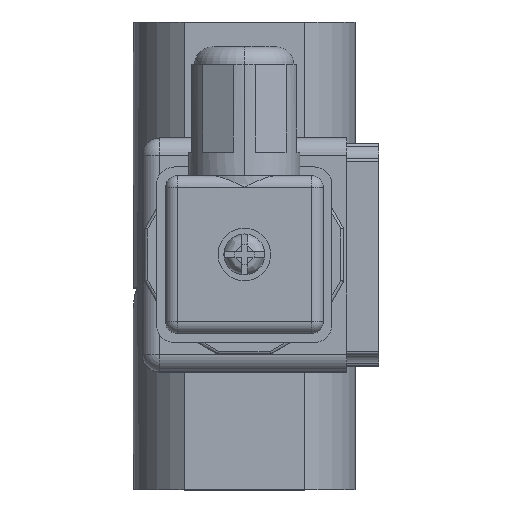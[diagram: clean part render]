
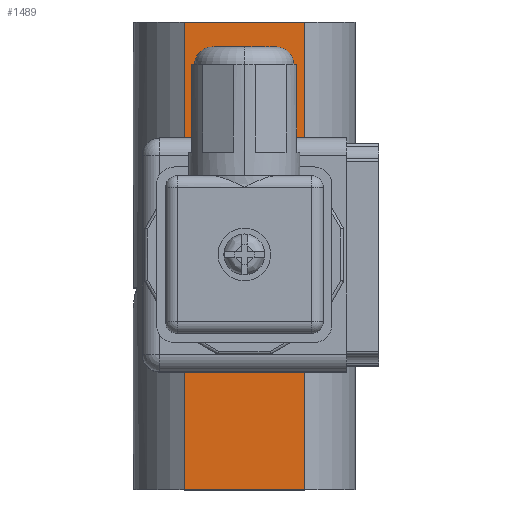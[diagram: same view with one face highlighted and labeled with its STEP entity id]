
A CAD part, top view. The second image highlights one B-rep face of the part: STEP entity #1489.
In plain terms, the highlighted planar face has unit normal (0, 0, 1).
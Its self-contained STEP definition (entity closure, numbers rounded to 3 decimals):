
#331=FACE_BOUND('',#2866,.T.);
#332=FACE_BOUND('',#2867,.T.);
#511=PLANE('',#11580);
#861=B_SPLINE_CURVE_WITH_KNOTS('',3,(#20939,#20940,#20941,#20942,#20943,
#20944,#20945,#20946,#20947,#20948),.UNSPECIFIED.,.F.,.F.,(4,2,2,2,4),(0.,
0.25,0.5,0.75,1.),.UNSPECIFIED.);
#862=B_SPLINE_CURVE_WITH_KNOTS('',3,(#20950,#20951,#20952,#20953,#20954,
#20955,#20956,#20957,#20958,#20959),.UNSPECIFIED.,.F.,.F.,(4,2,2,2,4),(0.,
0.25,0.5,0.75,1.),.UNSPECIFIED.);
#1489=ADVANCED_FACE('',(#331,#332),#511,.T.);
#2866=EDGE_LOOP('',(#6397,#6398,#6399,#6400,#6401));
#2867=EDGE_LOOP('',(#6402,#6403,#6404,#6405));
#3545=LINE('',#18199,#4368);
#3581=LINE('',#18624,#4404);
#3586=LINE('',#18640,#4409);
#3587=LINE('',#18646,#4410);
#4368=VECTOR('',#12994,1.);
#4404=VECTOR('',#13112,1.);
#4409=VECTOR('',#13125,1.);
#4410=VECTOR('',#13132,1.);
#6397=ORIENTED_EDGE('',*,*,#9959,.F.);
#6398=ORIENTED_EDGE('',*,*,#9883,.T.);
#6399=ORIENTED_EDGE('',*,*,#9900,.T.);
#6400=ORIENTED_EDGE('',*,*,#9960,.F.);
#6401=ORIENTED_EDGE('',*,*,#9961,.F.);
#6402=ORIENTED_EDGE('',*,*,#9912,.T.);
#6403=ORIENTED_EDGE('',*,*,#9829,.F.);
#6404=ORIENTED_EDGE('',*,*,#9923,.F.);
#6405=ORIENTED_EDGE('',*,*,#9920,.F.);
#8585=VERTEX_POINT('',#18198);
#8586=VERTEX_POINT('',#18200);
#8629=VERTEX_POINT('',#18404);
#8630=VERTEX_POINT('',#18405);
#8644=VERTEX_POINT('',#18514);
#8646=VERTEX_POINT('',#18625);
#8653=VERTEX_POINT('',#18641);
#8677=VERTEX_POINT('',#20949);
#8678=VERTEX_POINT('',#20960);
#9829=EDGE_CURVE('',#8585,#8586,#3545,.T.);
#9883=EDGE_CURVE('',#8629,#8630,#10991,.T.);
#9900=EDGE_CURVE('',#8630,#8644,#10992,.T.);
#9912=EDGE_CURVE('',#8646,#8586,#3581,.T.);
#9920=EDGE_CURVE('',#8646,#8653,#3586,.T.);
#9923=EDGE_CURVE('',#8653,#8585,#3587,.T.);
#9959=EDGE_CURVE('',#8629,#8677,#861,.T.);
#9960=EDGE_CURVE('',#8678,#8644,#862,.T.);
#9961=EDGE_CURVE('',#8677,#8678,#11011,.T.);
#10991=CIRCLE('',#11532,7.5);
#10992=CIRCLE('',#11537,7.5);
#11011=CIRCLE('',#11579,8.5);
#11532=AXIS2_PLACEMENT_3D('',#18403,#13079,#13080);
#11537=AXIS2_PLACEMENT_3D('',#18515,#13096,#13097);
#11579=AXIS2_PLACEMENT_3D('',#20961,#13194,#13195);
#11580=AXIS2_PLACEMENT_3D('',#20962,#13196,#13197);
#12994=DIRECTION('',(0.,1.,0.));
#13079=DIRECTION('',(0.,0.,-1.));
#13080=DIRECTION('',(0.,1.,0.));
#13096=DIRECTION('',(0.,0.,-1.));
#13097=DIRECTION('',(0.,1.,0.));
#13112=DIRECTION('',(-1.,0.,0.));
#13125=DIRECTION('',(0.,-1.,0.));
#13132=DIRECTION('',(-1.,0.,0.));
#13194=DIRECTION('',(0.,0.,1.));
#13195=DIRECTION('',(0.,-1.,0.));
#13196=DIRECTION('',(0.,0.,1.));
#13197=DIRECTION('',(0.,-1.,0.));
#18198=CARTESIAN_POINT('',(15.217,-3.6,-94.023));
#18199=CARTESIAN_POINT('',(15.217,80.4,-94.023));
#18200=CARTESIAN_POINT('',(15.217,76.4,-94.023));
#18403=CARTESIAN_POINT('',(25.5,36.4,-94.023));
#18404=CARTESIAN_POINT('',(25.229,43.895,-94.023));
#18405=CARTESIAN_POINT('',(25.5,43.9,-94.023));
#18514=CARTESIAN_POINT('',(25.771,43.895,-94.023));
#18515=CARTESIAN_POINT('',(25.5,36.4,-94.023));
#18624=CARTESIAN_POINT('',(25.5,76.4,-94.023));
#18625=CARTESIAN_POINT('',(35.783,76.4,-94.023));
#18640=CARTESIAN_POINT('',(35.783,80.4,-94.023));
#18641=CARTESIAN_POINT('',(35.783,-3.6,-94.023));
#18646=CARTESIAN_POINT('',(25.5,-3.6,-94.023));
#20939=CARTESIAN_POINT('',(25.229,43.895,-94.023));
#20940=CARTESIAN_POINT('',(23.191,43.91,-94.023));
#20941=CARTESIAN_POINT('',(21.194,43.066,-94.023));
#20942=CARTESIAN_POINT('',(18.359,40.221,-94.023));
#20943=CARTESIAN_POINT('',(17.52,38.219,-94.023));
#20944=CARTESIAN_POINT('',(17.453,34.191,-94.023));
#20945=CARTESIAN_POINT('',(18.202,32.184,-94.023));
#20946=CARTESIAN_POINT('',(20.906,29.145,-94.023));
#20947=CARTESIAN_POINT('',(22.786,28.174,-94.023));
#20948=CARTESIAN_POINT('',(24.805,27.928,-94.023));
#20949=CARTESIAN_POINT('',(24.805,27.928,-94.023));
#20950=CARTESIAN_POINT('',(26.195,27.928,-94.023));
#20951=CARTESIAN_POINT('',(28.215,28.174,-94.023));
#20952=CARTESIAN_POINT('',(30.119,29.17,-94.023));
#20953=CARTESIAN_POINT('',(32.783,32.17,-94.023));
#20954=CARTESIAN_POINT('',(33.547,34.198,-94.023));
#20955=CARTESIAN_POINT('',(33.48,38.211,-94.023));
#20956=CARTESIAN_POINT('',(32.65,40.212,-94.023));
#20957=CARTESIAN_POINT('',(29.799,43.073,-94.023));
#20958=CARTESIAN_POINT('',(27.809,43.91,-94.023));
#20959=CARTESIAN_POINT('',(25.771,43.895,-94.023));
#20960=CARTESIAN_POINT('',(26.195,27.928,-94.023));
#20961=CARTESIAN_POINT('',(25.5,36.4,-94.023));
#20962=CARTESIAN_POINT('',(48.,139.4,-94.023));
